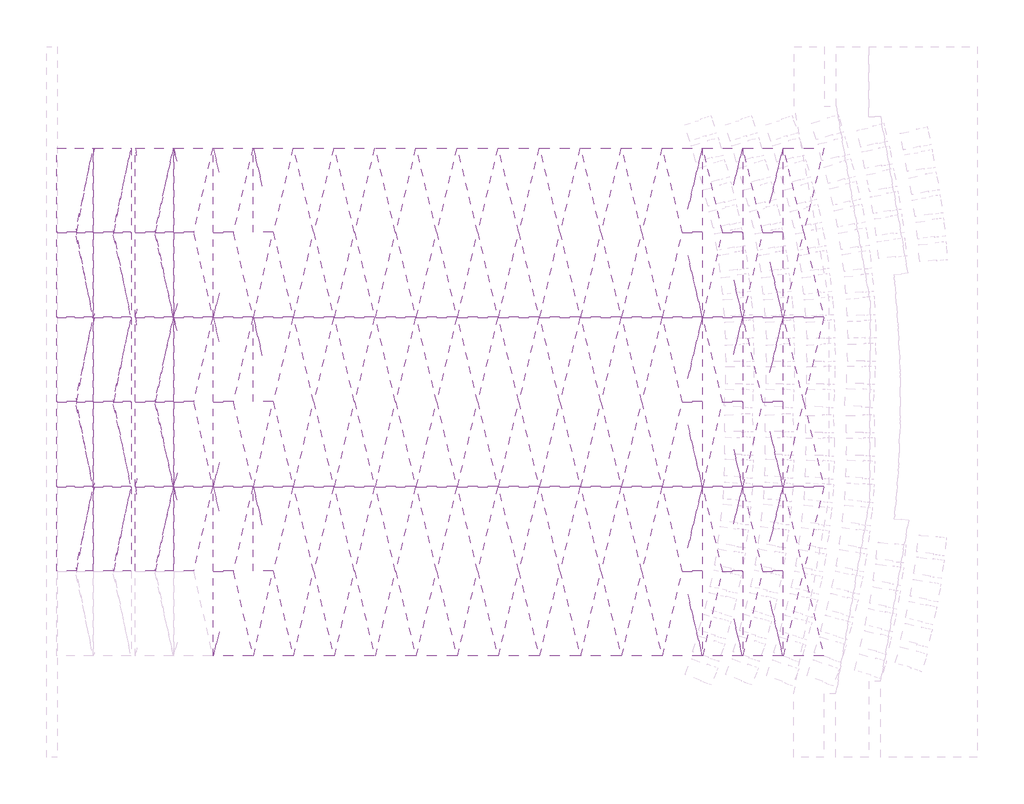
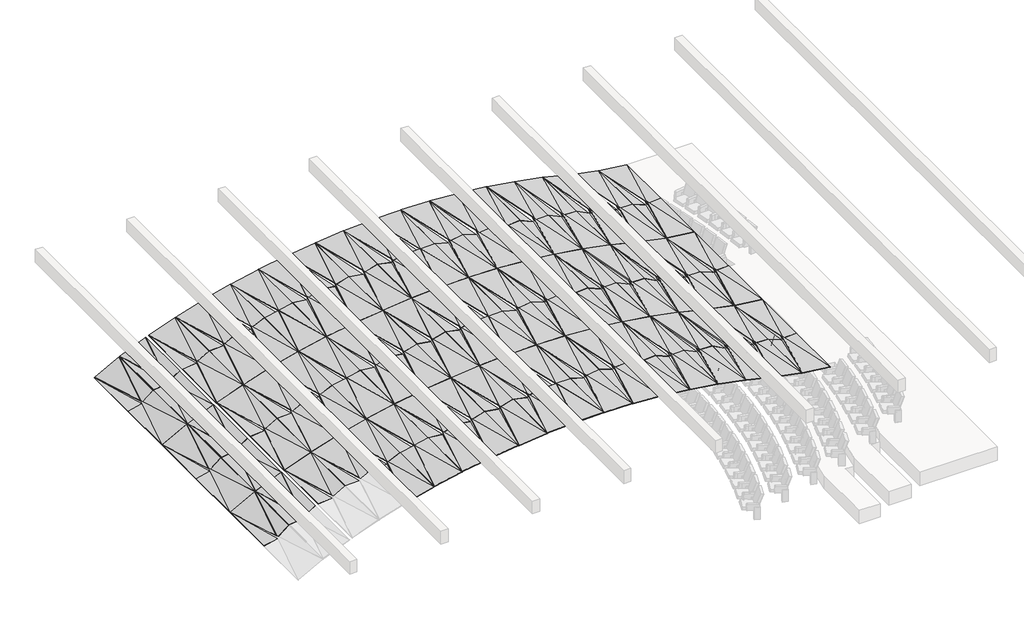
# One storey, part 5 of 5: 110 proxies.
"""IFC4 building model written with IfcOpenShell, lengths in millimetres."""

from ifc_helpers import new_model, si_unit, origin, place, context, project, spatial, transform, mapped, element, save
from components import generic_models_667b148d, generic_models_108fd8ef, generic_models_2737dbee, generic_models_52f4ddec, generic_models_476431cb, generic_models_bd13cf26, generic_models_0ea9d55a, generic_models_2425ae3d, generic_models_e1de1ecb, generic_models_1b4095ce, generic_models_89bddd4e, generic_models_99ad1ba7, generic_models_b48fa795, generic_models_03871825, generic_models_1474474d, generic_models_e3e74076, generic_models_5f1f3cf9, generic_models_ceb30a04, generic_models_93fc6445, generic_models_e78cfc23, generic_models_ebd2a3c5, generic_models_532f8a5e, generic_models_9de98600, generic_models_8ffda326, generic_models_444bb2c5, generic_models_ba33a975, generic_models_becdabcb, generic_models_4b981a6c, generic_models_98ffec8b, generic_models_5af88551, generic_models_6d9f846d, generic_models_cafb4e8f, generic_models_b7cadb70, generic_models_e6cef362, generic_models_786d5ee3, generic_models_b94cf159, generic_models_fa9d7e46, generic_models_217b12a0

model = new_model("IFC4")

# Units and contexts
model_context = context("Model", 3, world=origin())
ifc_project = project(units=[si_unit("LENGTHUNIT", "METRE", prefix="MILLI")], contexts=[model_context])

# Site, building, storey
site = spatial("IfcSite", under=ifc_project)
building = spatial("IfcBuilding", under=site)
storey = spatial("IfcBuildingStorey", under=building, Name="0 WYSOKI PARTER", Elevation=0.0)

# Proxies
placement = place(None, origin())
generic_models_shape = generic_models_667b148d(model_context)
element("IfcBuildingElementProxy", 1, Name="panel sufitowy 6 : panel sufitowy 6", ObjectType="panel sufitowy 6 : panel sufitowy 6", at=placement, inside=storey, context=model_context, shape_type="MappedRepresentation", body=[
    mapped(generic_models_shape, transform((143696.7546251, 55525.1997788, 6087.5189261), x_axis=(-1.0, 0.0, 0.0), y_axis=(0.0, -1.0, 0.0), z_axis=(0.0, 0.0, 1.0))),
])
element("IfcBuildingElementProxy", 2, Name="panel sufitowy 6 : panel sufitowy 6", ObjectType="panel sufitowy 6 : panel sufitowy 6", at=placement, inside=storey, context=model_context, shape_type="MappedRepresentation", body=[
    mapped(generic_models_shape, transform((143696.7546251, 59703.9981439, 6087.5189261), x_axis=(-1.0, 0.0, 0.0), y_axis=(0.0, -1.0, 0.0), z_axis=(0.0, 0.0, 1.0))),
])
element("IfcBuildingElementProxy", 3, Name="panel sufitowy 6 : panel sufitowy 6", ObjectType="panel sufitowy 6 : panel sufitowy 6", at=placement, inside=storey, context=model_context, shape_type="MappedRepresentation", body=[
    mapped(generic_models_shape, transform((143696.7546251, 63882.796509, 6087.5189261), x_axis=(-1.0, 0.0, 0.0), y_axis=(0.0, -1.0, 0.0), z_axis=(0.0, 0.0, 1.0))),
])
generic_models_2_shape = generic_models_108fd8ef(model_context)
element("IfcBuildingElementProxy", 4, Name="panel sufitowy 6 : panel sufitowy 6", ObjectType="panel sufitowy 6 : panel sufitowy 6", at=placement, inside=storey, context=model_context, shape_type="MappedRepresentation", body=[
    mapped(generic_models_2_shape, transform((150721.1917465, 55525.1997788, 4971.3714142), x_axis=(-1.0, 0.0, 0.0), y_axis=(0.0, -1.0, 0.0), z_axis=(0.0, 0.0, 1.0))),
])
element("IfcBuildingElementProxy", 5, Name="panel sufitowy 6 : panel sufitowy 6", ObjectType="panel sufitowy 6 : panel sufitowy 6", at=placement, inside=storey, context=model_context, shape_type="MappedRepresentation", body=[
    mapped(generic_models_2_shape, transform((150721.1917465, 59703.9981439, 4971.3714142), x_axis=(-1.0, 0.0, 0.0), y_axis=(0.0, -1.0, 0.0), z_axis=(0.0, 0.0, 1.0))),
])
element("IfcBuildingElementProxy", 6, Name="panel sufitowy 6 : panel sufitowy 6", ObjectType="panel sufitowy 6 : panel sufitowy 6", at=placement, inside=storey, context=model_context, shape_type="MappedRepresentation", body=[
    mapped(generic_models_2_shape, transform((150721.1917465, 63882.796509, 4971.3714142), x_axis=(-1.0, 0.0, 0.0), y_axis=(0.0, -1.0, 0.0), z_axis=(0.0, 0.0, 1.0))),
])
generic_models_3_shape = generic_models_2737dbee(model_context)
element("IfcBuildingElementProxy", 7, Name="panel sufitowy 6 : panel sufitowy 6", ObjectType="panel sufitowy 6 : panel sufitowy 6", at=placement, inside=storey, context=model_context, shape_type="MappedRepresentation", body=[
    mapped(generic_models_3_shape, transform((149706.7201333, 55525.1997788, 5076.4594511), x_axis=(-1.0, 0.0, 0.0), y_axis=(0.0, -1.0, 0.0), z_axis=(0.0, 0.0, 1.0))),
])
element("IfcBuildingElementProxy", 8, Name="panel sufitowy 6 : panel sufitowy 6", ObjectType="panel sufitowy 6 : panel sufitowy 6", at=placement, inside=storey, context=model_context, shape_type="MappedRepresentation", body=[
    mapped(generic_models_3_shape, transform((149706.7201333, 59703.9981439, 5076.4594511), x_axis=(-1.0, 0.0, 0.0), y_axis=(0.0, -1.0, 0.0), z_axis=(0.0, 0.0, 1.0))),
])
element("IfcBuildingElementProxy", 9, Name="panel sufitowy 6 : panel sufitowy 6", ObjectType="panel sufitowy 6 : panel sufitowy 6", at=placement, inside=storey, context=model_context, shape_type="MappedRepresentation", body=[
    mapped(generic_models_3_shape, transform((149706.7201333, 63882.796509, 5076.4594511), x_axis=(-1.0, 0.0, 0.0), y_axis=(0.0, -1.0, 0.0), z_axis=(0.0, 0.0, 1.0))),
])
generic_models_4_shape = generic_models_52f4ddec(model_context)
element("IfcBuildingElementProxy", 10, Name="panel sufitowy 6 : panel sufitowy 6", ObjectType="panel sufitowy 6 : panel sufitowy 6", at=placement, inside=storey, context=model_context, shape_type="MappedRepresentation", body=[
    mapped(generic_models_4_shape, transform((148707.357537, 55525.1997788, 5271.4096876), x_axis=(-1.0, 0.0, 0.0), y_axis=(0.0, -1.0, 0.0), z_axis=(0.0, 0.0, 1.0))),
])
element("IfcBuildingElementProxy", 11, Name="panel sufitowy 6 : panel sufitowy 6", ObjectType="panel sufitowy 6 : panel sufitowy 6", at=placement, inside=storey, context=model_context, shape_type="MappedRepresentation", body=[
    mapped(generic_models_4_shape, transform((148707.357537, 59703.9981439, 5271.4096876), x_axis=(-1.0, 0.0, 0.0), y_axis=(0.0, -1.0, 0.0), z_axis=(0.0, 0.0, 1.0))),
])
element("IfcBuildingElementProxy", 12, Name="panel sufitowy 6 : panel sufitowy 6", ObjectType="panel sufitowy 6 : panel sufitowy 6", at=placement, inside=storey, context=model_context, shape_type="MappedRepresentation", body=[
    mapped(generic_models_4_shape, transform((148707.357537, 63882.796509, 5271.4096876), x_axis=(-1.0, 0.0, 0.0), y_axis=(0.0, -1.0, 0.0), z_axis=(0.0, 0.0, 1.0))),
])
generic_models_5_shape = generic_models_476431cb(model_context)
element("IfcBuildingElementProxy", 13, Name="panel sufitowy 6 : panel sufitowy 6", ObjectType="panel sufitowy 6 : panel sufitowy 6", at=placement, inside=storey, context=model_context, shape_type="MappedRepresentation", body=[
    mapped(generic_models_5_shape, transform((147719.5402182, 55525.1997788, 5521.5239588), x_axis=(-1.0, 0.0, 0.0), y_axis=(0.0, -1.0, 0.0), z_axis=(0.0, 0.0, 1.0))),
])
element("IfcBuildingElementProxy", 14, Name="panel sufitowy 6 : panel sufitowy 6", ObjectType="panel sufitowy 6 : panel sufitowy 6", at=placement, inside=storey, context=model_context, shape_type="MappedRepresentation", body=[
    mapped(generic_models_5_shape, transform((147719.5402182, 59703.9981439, 5521.5239588), x_axis=(-1.0, 0.0, 0.0), y_axis=(0.0, -1.0, 0.0), z_axis=(0.0, 0.0, 1.0))),
])
element("IfcBuildingElementProxy", 15, Name="panel sufitowy 6 : panel sufitowy 6", ObjectType="panel sufitowy 6 : panel sufitowy 6", at=placement, inside=storey, context=model_context, shape_type="MappedRepresentation", body=[
    mapped(generic_models_5_shape, transform((147719.5402182, 63882.796509, 5521.5239588), x_axis=(-1.0, 0.0, 0.0), y_axis=(0.0, -1.0, 0.0), z_axis=(0.0, 0.0, 1.0))),
])
generic_models_6_shape = generic_models_bd13cf26(model_context)
element("IfcBuildingElementProxy", 16, Name="panel sufitowy 6 : panel sufitowy 6", ObjectType="panel sufitowy 6 : panel sufitowy 6", at=placement, inside=storey, context=model_context, shape_type="MappedRepresentation", body=[
    mapped(generic_models_6_shape, transform((146724.2621182, 55525.1997788, 5725.9583251), x_axis=(-1.0, 0.0, 0.0), y_axis=(0.0, -1.0, 0.0), z_axis=(0.0, 0.0, 1.0))),
])
element("IfcBuildingElementProxy", 17, Name="panel sufitowy 6 : panel sufitowy 6", ObjectType="panel sufitowy 6 : panel sufitowy 6", at=placement, inside=storey, context=model_context, shape_type="MappedRepresentation", body=[
    mapped(generic_models_6_shape, transform((146724.2621182, 59703.9981439, 5725.9583251), x_axis=(-1.0, 0.0, 0.0), y_axis=(0.0, -1.0, 0.0), z_axis=(0.0, 0.0, 1.0))),
])
element("IfcBuildingElementProxy", 18, Name="panel sufitowy 6 : panel sufitowy 6", ObjectType="panel sufitowy 6 : panel sufitowy 6", at=placement, inside=storey, context=model_context, shape_type="MappedRepresentation", body=[
    mapped(generic_models_6_shape, transform((146724.2621182, 63882.796509, 5725.9583251), x_axis=(-1.0, 0.0, 0.0), y_axis=(0.0, -1.0, 0.0), z_axis=(0.0, 0.0, 1.0))),
])
generic_models_7_shape = generic_models_0ea9d55a(model_context)
element("IfcBuildingElementProxy", 19, Name="panel sufitowy 6 : panel sufitowy 6", ObjectType="panel sufitowy 6 : panel sufitowy 6", at=placement, inside=storey, context=model_context, shape_type="MappedRepresentation", body=[
    mapped(generic_models_7_shape, transform((145721.6968942, 55525.1997788, 5888.9571348), x_axis=(-1.0, 0.0, 0.0), y_axis=(0.0, -1.0, 0.0), z_axis=(0.0, 0.0, 1.0))),
])
element("IfcBuildingElementProxy", 20, Name="panel sufitowy 6 : panel sufitowy 6", ObjectType="panel sufitowy 6 : panel sufitowy 6", at=placement, inside=storey, context=model_context, shape_type="MappedRepresentation", body=[
    mapped(generic_models_7_shape, transform((145721.6968942, 59703.9981439, 5888.9571348), x_axis=(-1.0, 0.0, 0.0), y_axis=(0.0, -1.0, 0.0), z_axis=(0.0, 0.0, 1.0))),
])
element("IfcBuildingElementProxy", 21, Name="panel sufitowy 6 : panel sufitowy 6", ObjectType="panel sufitowy 6 : panel sufitowy 6", at=placement, inside=storey, context=model_context, shape_type="MappedRepresentation", body=[
    mapped(generic_models_7_shape, transform((145721.6968942, 63882.796509, 5888.9571348), x_axis=(-1.0, 0.0, 0.0), y_axis=(0.0, -1.0, 0.0), z_axis=(0.0, 0.0, 1.0))),
])
generic_models_8_shape = generic_models_2425ae3d(model_context)
element("IfcBuildingElementProxy", 22, Name="panel sufitowy 6 : panel sufitowy 6", ObjectType="panel sufitowy 6 : panel sufitowy 6", at=placement, inside=storey, context=model_context, shape_type="MappedRepresentation", body=[
    mapped(generic_models_8_shape, transform((144711.2626485, 55525.1997788, 6003.1580534), x_axis=(-1.0, 0.0, 0.0), y_axis=(0.0, -1.0, 0.0), z_axis=(0.0, 0.0, 1.0))),
])
element("IfcBuildingElementProxy", 23, Name="panel sufitowy 6 : panel sufitowy 6", ObjectType="panel sufitowy 6 : panel sufitowy 6", at=placement, inside=storey, context=model_context, shape_type="MappedRepresentation", body=[
    mapped(generic_models_8_shape, transform((144711.2626485, 59703.9981439, 6003.1580534), x_axis=(-1.0, 0.0, 0.0), y_axis=(0.0, -1.0, 0.0), z_axis=(0.0, 0.0, 1.0))),
])
element("IfcBuildingElementProxy", 24, Name="panel sufitowy 6 : panel sufitowy 6", ObjectType="panel sufitowy 6 : panel sufitowy 6", at=placement, inside=storey, context=model_context, shape_type="MappedRepresentation", body=[
    mapped(generic_models_8_shape, transform((144711.2626485, 63882.796509, 6003.1580534), x_axis=(-1.0, 0.0, 0.0), y_axis=(0.0, -1.0, 0.0), z_axis=(0.0, 0.0, 1.0))),
])
generic_models_9_shape = generic_models_e1de1ecb(model_context)
element("IfcBuildingElementProxy", 25, Name="panel sufitowy 6 : panel sufitowy 6", ObjectType="panel sufitowy 6 : panel sufitowy 6", at=placement, inside=storey, context=model_context, shape_type="MappedRepresentation", body=[
    mapped(generic_models_9_shape, transform((142682.7546251, 55525.1997788, 6115.5189261), x_axis=(-1.0, 0.0, 0.0), y_axis=(0.0, -1.0, 0.0), z_axis=(0.0, 0.0, 1.0))),
])
element("IfcBuildingElementProxy", 26, Name="panel sufitowy 6 : panel sufitowy 6", ObjectType="panel sufitowy 6 : panel sufitowy 6", at=placement, inside=storey, context=model_context, shape_type="MappedRepresentation", body=[
    mapped(generic_models_9_shape, transform((142682.7546251, 59703.9981439, 6115.5189261), x_axis=(-1.0, 0.0, 0.0), y_axis=(0.0, -1.0, 0.0), z_axis=(0.0, 0.0, 1.0))),
])
element("IfcBuildingElementProxy", 27, Name="panel sufitowy 6 : panel sufitowy 6", ObjectType="panel sufitowy 6 : panel sufitowy 6", at=placement, inside=storey, context=model_context, shape_type="MappedRepresentation", body=[
    mapped(generic_models_9_shape, transform((142682.7546251, 63882.796509, 6115.5189261), x_axis=(-1.0, 0.0, 0.0), y_axis=(0.0, -1.0, 0.0), z_axis=(0.0, 0.0, 1.0))),
])
generic_models_10_shape = generic_models_1b4095ce(model_context)
element("IfcBuildingElementProxy", 28, Name="panel sufitowy 6 : panel sufitowy 6", ObjectType="panel sufitowy 6 : panel sufitowy 6", at=placement, inside=storey, context=model_context, shape_type="MappedRepresentation", body=[
    mapped(generic_models_10_shape, transform((141668.9090622, 55525.1997788, 6107.822186), x_axis=(-1.0, 0.0, 0.0), y_axis=(0.0, -1.0, 0.0), z_axis=(0.0, 0.0, 1.0))),
])
element("IfcBuildingElementProxy", 29, Name="panel sufitowy 6 : panel sufitowy 6", ObjectType="panel sufitowy 6 : panel sufitowy 6", at=placement, inside=storey, context=model_context, shape_type="MappedRepresentation", body=[
    mapped(generic_models_10_shape, transform((141668.9090622, 59703.9981439, 6107.822186), x_axis=(-1.0, 0.0, 0.0), y_axis=(0.0, -1.0, 0.0), z_axis=(0.0, 0.0, 1.0))),
])
element("IfcBuildingElementProxy", 30, Name="panel sufitowy 6 : panel sufitowy 6", ObjectType="panel sufitowy 6 : panel sufitowy 6", at=placement, inside=storey, context=model_context, shape_type="MappedRepresentation", body=[
    mapped(generic_models_10_shape, transform((141668.9090622, 63882.796509, 6107.822186), x_axis=(-1.0, 0.0, 0.0), y_axis=(0.0, -1.0, 0.0), z_axis=(0.0, 0.0, 1.0))),
])
generic_models_11_shape = generic_models_89bddd4e(model_context)
element("IfcBuildingElementProxy", 31, Name="panel sufitowy 6 : panel sufitowy 6", ObjectType="panel sufitowy 6 : panel sufitowy 6", at=placement, inside=storey, context=model_context, shape_type="MappedRepresentation", body=[
    mapped(generic_models_11_shape, transform((140653.3028254, 55525.1997788, 6066.5965185), x_axis=(-1.0, 0.0, 0.0), y_axis=(0.0, -1.0, 0.0), z_axis=(0.0, 0.0, 1.0))),
])
element("IfcBuildingElementProxy", 32, Name="panel sufitowy 6 : panel sufitowy 6", ObjectType="panel sufitowy 6 : panel sufitowy 6", at=placement, inside=storey, context=model_context, shape_type="MappedRepresentation", body=[
    mapped(generic_models_11_shape, transform((140653.3028254, 59703.9981439, 6066.5965185), x_axis=(-1.0, 0.0, 0.0), y_axis=(0.0, -1.0, 0.0), z_axis=(0.0, 0.0, 1.0))),
])
element("IfcBuildingElementProxy", 33, Name="panel sufitowy 6 : panel sufitowy 6", ObjectType="panel sufitowy 6 : panel sufitowy 6", at=placement, inside=storey, context=model_context, shape_type="MappedRepresentation", body=[
    mapped(generic_models_11_shape, transform((140653.3028254, 63882.796509, 6066.5965185), x_axis=(-1.0, 0.0, 0.0), y_axis=(0.0, -1.0, 0.0), z_axis=(0.0, 0.0, 1.0))),
])
generic_models_12_shape = generic_models_99ad1ba7(model_context)
element("IfcBuildingElementProxy", 34, Name="panel sufitowy 6 : panel sufitowy 6", ObjectType="panel sufitowy 6 : panel sufitowy 6", at=placement, inside=storey, context=model_context, shape_type="MappedRepresentation", body=[
    mapped(generic_models_12_shape, transform((139640.1696753, 55525.1997788, 5964.3746941), x_axis=(-1.0, 0.0, 0.0), y_axis=(0.0, -1.0, 0.0), z_axis=(0.0, 0.0, 1.0))),
])
element("IfcBuildingElementProxy", 35, Name="panel sufitowy 6 : panel sufitowy 6", ObjectType="panel sufitowy 6 : panel sufitowy 6", at=placement, inside=storey, context=model_context, shape_type="MappedRepresentation", body=[
    mapped(generic_models_12_shape, transform((139640.1696753, 59703.9981439, 5964.3746941), x_axis=(-1.0, 0.0, 0.0), y_axis=(0.0, -1.0, 0.0), z_axis=(0.0, 0.0, 1.0))),
])
element("IfcBuildingElementProxy", 36, Name="panel sufitowy 6 : panel sufitowy 6", ObjectType="panel sufitowy 6 : panel sufitowy 6", at=placement, inside=storey, context=model_context, shape_type="MappedRepresentation", body=[
    mapped(generic_models_12_shape, transform((139640.1696753, 63882.796509, 5964.3746941), x_axis=(-1.0, 0.0, 0.0), y_axis=(0.0, -1.0, 0.0), z_axis=(0.0, 0.0, 1.0))),
])
generic_models_13_shape = generic_models_b48fa795(model_context)
element("IfcBuildingElementProxy", 37, Name="panel sufitowy 6 : panel sufitowy 6", ObjectType="panel sufitowy 6 : panel sufitowy 6", at=placement, inside=storey, context=model_context, shape_type="MappedRepresentation", body=[
    mapped(generic_models_13_shape, transform((138629.7875083, 55525.1997788, 5849.8242251), x_axis=(-1.0, 0.0, 0.0), y_axis=(0.0, -1.0, 0.0), z_axis=(0.0, 0.0, 1.0))),
])
element("IfcBuildingElementProxy", 38, Name="panel sufitowy 6 : panel sufitowy 6", ObjectType="panel sufitowy 6 : panel sufitowy 6", at=placement, inside=storey, context=model_context, shape_type="MappedRepresentation", body=[
    mapped(generic_models_13_shape, transform((138629.7875083, 59703.9981439, 5849.8242251), x_axis=(-1.0, 0.0, 0.0), y_axis=(0.0, -1.0, 0.0), z_axis=(0.0, 0.0, 1.0))),
])
element("IfcBuildingElementProxy", 39, Name="panel sufitowy 6 : panel sufitowy 6", ObjectType="panel sufitowy 6 : panel sufitowy 6", at=placement, inside=storey, context=model_context, shape_type="MappedRepresentation", body=[
    mapped(generic_models_13_shape, transform((138629.7875083, 63882.796509, 5849.8242251), x_axis=(-1.0, 0.0, 0.0), y_axis=(0.0, -1.0, 0.0), z_axis=(0.0, 0.0, 1.0))),
])
generic_models_14_shape = generic_models_03871825(model_context)
element("IfcBuildingElementProxy", 40, Name="panel sufitowy 6 : panel sufitowy 6", ObjectType="panel sufitowy 6 : panel sufitowy 6", at=placement, inside=storey, context=model_context, shape_type="MappedRepresentation", body=[
    mapped(generic_models_14_shape, transform((137624.2961543, 55525.1997788, 5703.8868086), x_axis=(-1.0, 0.0, 0.0), y_axis=(0.0, -1.0, 0.0), z_axis=(0.0, 0.0, 1.0))),
])
element("IfcBuildingElementProxy", 41, Name="panel sufitowy 6 : panel sufitowy 6", ObjectType="panel sufitowy 6 : panel sufitowy 6", at=placement, inside=storey, context=model_context, shape_type="MappedRepresentation", body=[
    mapped(generic_models_14_shape, transform((137624.2961543, 59703.9981439, 5703.8868086), x_axis=(-1.0, 0.0, 0.0), y_axis=(0.0, -1.0, 0.0), z_axis=(0.0, 0.0, 1.0))),
])
element("IfcBuildingElementProxy", 42, Name="panel sufitowy 6 : panel sufitowy 6", ObjectType="panel sufitowy 6 : panel sufitowy 6", at=placement, inside=storey, context=model_context, shape_type="MappedRepresentation", body=[
    mapped(generic_models_14_shape, transform((137624.2961543, 63882.796509, 5703.8868086), x_axis=(-1.0, 0.0, 0.0), y_axis=(0.0, -1.0, 0.0), z_axis=(0.0, 0.0, 1.0))),
])
generic_models_15_shape = generic_models_1474474d(model_context)
element("IfcBuildingElementProxy", 43, Name="panel sufitowy 6 : panel sufitowy 6", ObjectType="panel sufitowy 6 : panel sufitowy 6", at=placement, inside=storey, context=model_context, shape_type="MappedRepresentation", body=[
    mapped(generic_models_15_shape, transform((136626.5418968, 55525.1997788, 5503.2327074), x_axis=(-1.0, 0.0, 0.0), y_axis=(0.0, -1.0, 0.0), z_axis=(0.0, 0.0, 1.0))),
])
element("IfcBuildingElementProxy", 44, Name="panel sufitowy 6 : panel sufitowy 6", ObjectType="panel sufitowy 6 : panel sufitowy 6", at=placement, inside=storey, context=model_context, shape_type="MappedRepresentation", body=[
    mapped(generic_models_15_shape, transform((136626.5418968, 59703.9981439, 5503.2327074), x_axis=(-1.0, 0.0, 0.0), y_axis=(0.0, -1.0, 0.0), z_axis=(0.0, 0.0, 1.0))),
])
element("IfcBuildingElementProxy", 45, Name="panel sufitowy 6 : panel sufitowy 6", ObjectType="panel sufitowy 6 : panel sufitowy 6", at=placement, inside=storey, context=model_context, shape_type="MappedRepresentation", body=[
    mapped(generic_models_15_shape, transform((136626.5418968, 63882.796509, 5503.2327074), x_axis=(-1.0, 0.0, 0.0), y_axis=(0.0, -1.0, 0.0), z_axis=(0.0, 0.0, 1.0))),
])
generic_models_16_shape = generic_models_e3e74076(model_context)
element("IfcBuildingElementProxy", 46, Name="panel sufitowy 6 : panel sufitowy 6", ObjectType="panel sufitowy 6 : panel sufitowy 6", at=placement, inside=storey, context=model_context, shape_type="MappedRepresentation", body=[
    mapped(generic_models_16_shape, transform((135632.7214389, 55525.1997788, 5259.4400615), x_axis=(-1.0, 0.0, 0.0), y_axis=(0.0, -1.0, 0.0), z_axis=(0.0, 0.0, 1.0))),
])
element("IfcBuildingElementProxy", 47, Name="panel sufitowy 6 : panel sufitowy 6", ObjectType="panel sufitowy 6 : panel sufitowy 6", at=placement, inside=storey, context=model_context, shape_type="MappedRepresentation", body=[
    mapped(generic_models_16_shape, transform((135632.7214389, 59703.9981439, 5259.4400615), x_axis=(-1.0, 0.0, 0.0), y_axis=(0.0, -1.0, 0.0), z_axis=(0.0, 0.0, 1.0))),
])
element("IfcBuildingElementProxy", 48, Name="panel sufitowy 6 : panel sufitowy 6", ObjectType="panel sufitowy 6 : panel sufitowy 6", at=placement, inside=storey, context=model_context, shape_type="MappedRepresentation", body=[
    mapped(generic_models_16_shape, transform((135632.7214389, 63882.796509, 5259.4400615), x_axis=(-1.0, 0.0, 0.0), y_axis=(0.0, -1.0, 0.0), z_axis=(0.0, 0.0, 1.0))),
])
generic_models_17_shape = generic_models_5f1f3cf9(model_context)
element("IfcBuildingElementProxy", 49, Name="panel sufitowy 6 : panel sufitowy 6", ObjectType="panel sufitowy 6 : panel sufitowy 6", at=placement, inside=storey, context=model_context, shape_type="MappedRepresentation", body=[
    mapped(generic_models_17_shape, transform((134659.1615643, 55525.1997788, 4964.216617), x_axis=(-1.0, 0.0, 0.0), y_axis=(0.0, -1.0, 0.0), z_axis=(0.0, 0.0, 1.0))),
])
element("IfcBuildingElementProxy", 50, Name="panel sufitowy 6 : panel sufitowy 6", ObjectType="panel sufitowy 6 : panel sufitowy 6", at=placement, inside=storey, context=model_context, shape_type="MappedRepresentation", body=[
    mapped(generic_models_17_shape, transform((134659.1615643, 59703.9981439, 4964.216617), x_axis=(-1.0, 0.0, 0.0), y_axis=(0.0, -1.0, 0.0), z_axis=(0.0, 0.0, 1.0))),
])
element("IfcBuildingElementProxy", 51, Name="panel sufitowy 6 : panel sufitowy 6", ObjectType="panel sufitowy 6 : panel sufitowy 6", at=placement, inside=storey, context=model_context, shape_type="MappedRepresentation", body=[
    mapped(generic_models_17_shape, transform((134659.1615643, 63882.796509, 4964.216617), x_axis=(-1.0, 0.0, 0.0), y_axis=(0.0, -1.0, 0.0), z_axis=(0.0, 0.0, 1.0))),
])
generic_models_18_shape = generic_models_ceb30a04(model_context)
element("IfcBuildingElementProxy", 52, Name="panel sufitowy 6 : panel sufitowy 6", ObjectType="panel sufitowy 6 : panel sufitowy 6", at=placement, inside=storey, context=model_context, shape_type="MappedRepresentation", body=[
    mapped(generic_models_18_shape, transform((133610.0646602, 55525.1997788, 4599.555071), x_axis=(-1.0, 0.0, 0.0), y_axis=(0.0, -1.0, 0.0), z_axis=(0.0, 0.0, 1.0))),
])
element("IfcBuildingElementProxy", 53, Name="panel sufitowy 6 : panel sufitowy 6", ObjectType="panel sufitowy 6 : panel sufitowy 6", at=placement, inside=storey, context=model_context, shape_type="MappedRepresentation", body=[
    mapped(generic_models_18_shape, transform((133610.0646602, 59703.9981439, 4599.555071), x_axis=(-1.0, 0.0, 0.0), y_axis=(0.0, -1.0, 0.0), z_axis=(0.0, 0.0, 1.0))),
])
element("IfcBuildingElementProxy", 54, Name="panel sufitowy 6 : panel sufitowy 6", ObjectType="panel sufitowy 6 : panel sufitowy 6", at=placement, inside=storey, context=model_context, shape_type="MappedRepresentation", body=[
    mapped(generic_models_18_shape, transform((133610.0646602, 63882.796509, 4599.555071), x_axis=(-1.0, 0.0, 0.0), y_axis=(0.0, -1.0, 0.0), z_axis=(0.0, 0.0, 1.0))),
])
generic_models_19_shape = generic_models_93fc6445(model_context)
element("IfcBuildingElementProxy", 55, Name="panel sufitowy 6 : panel sufitowy 6", ObjectType="panel sufitowy 6 : panel sufitowy 6", at=placement, inside=storey, context=model_context, shape_type="MappedRepresentation", body=[
    mapped(generic_models_19_shape, transform((132659.3547582, 55525.1997788, 4219.9166313), x_axis=(-1.0, 0.0, 0.0), y_axis=(0.0, -1.0, 0.0), z_axis=(0.0, 0.0, 1.0))),
])
element("IfcBuildingElementProxy", 56, Name="panel sufitowy 6 : panel sufitowy 6", ObjectType="panel sufitowy 6 : panel sufitowy 6", at=placement, inside=storey, context=model_context, shape_type="MappedRepresentation", body=[
    mapped(generic_models_19_shape, transform((132659.3547582, 59703.9981439, 4219.9166313), x_axis=(-1.0, 0.0, 0.0), y_axis=(0.0, -1.0, 0.0), z_axis=(0.0, 0.0, 1.0))),
])
element("IfcBuildingElementProxy", 57, Name="panel sufitowy 6 : panel sufitowy 6", ObjectType="panel sufitowy 6 : panel sufitowy 6", at=placement, inside=storey, context=model_context, shape_type="MappedRepresentation", body=[
    mapped(generic_models_19_shape, transform((132659.3547582, 63882.796509, 4219.9166313), x_axis=(-1.0, 0.0, 0.0), y_axis=(0.0, -1.0, 0.0), z_axis=(0.0, 0.0, 1.0))),
])
generic_models_20_shape = generic_models_e78cfc23(model_context)
element("IfcBuildingElementProxy", 58, Name="panel sufitowy 6 : panel sufitowy 6", ObjectType="panel sufitowy 6 : panel sufitowy 6", at=placement, inside=storey, context=model_context, shape_type="MappedRepresentation", body=[
    mapped(generic_models_20_shape, transform((143696.7546251, 50845.1997788, 6087.5189261), x_axis=(-1.0, 0.0, 0.0), y_axis=(0.0, -1.0, 0.0), z_axis=(0.0, 0.0, 1.0))),
])
element("IfcBuildingElementProxy", 59, Name="panel sufitowy 6 : panel sufitowy 6", ObjectType="panel sufitowy 6 : panel sufitowy 6", at=placement, inside=storey, context=model_context, shape_type="MappedRepresentation", body=[
    mapped(generic_models_20_shape, transform((143696.7546251, 55023.9981439, 6087.5189261), x_axis=(-1.0, 0.0, 0.0), y_axis=(0.0, -1.0, 0.0), z_axis=(0.0, 0.0, 1.0))),
])
element("IfcBuildingElementProxy", 60, Name="panel sufitowy 6 : panel sufitowy 6", ObjectType="panel sufitowy 6 : panel sufitowy 6", at=placement, inside=storey, context=model_context, shape_type="MappedRepresentation", body=[
    mapped(generic_models_20_shape, transform((143696.7546251, 59202.796509, 6087.5189261), x_axis=(-1.0, 0.0, 0.0), y_axis=(0.0, -1.0, 0.0), z_axis=(0.0, 0.0, 1.0))),
])
generic_models_21_shape = generic_models_ebd2a3c5(model_context)
element("IfcBuildingElementProxy", 61, Name="panel sufitowy 6 : panel sufitowy 6", ObjectType="panel sufitowy 6 : panel sufitowy 6", at=placement, inside=storey, context=model_context, shape_type="MappedRepresentation", body=[
    mapped(generic_models_21_shape, transform((150721.1917465, 50845.1997788, 4971.3714142), x_axis=(-1.0, 0.0, 0.0), y_axis=(0.0, -1.0, 0.0), z_axis=(0.0, 0.0, 1.0))),
])
element("IfcBuildingElementProxy", 62, Name="panel sufitowy 6 : panel sufitowy 6", ObjectType="panel sufitowy 6 : panel sufitowy 6", at=placement, inside=storey, context=model_context, shape_type="MappedRepresentation", body=[
    mapped(generic_models_21_shape, transform((150721.1917465, 55023.9981439, 4971.3714142), x_axis=(-1.0, 0.0, 0.0), y_axis=(0.0, -1.0, 0.0), z_axis=(0.0, 0.0, 1.0))),
])
element("IfcBuildingElementProxy", 63, Name="panel sufitowy 6 : panel sufitowy 6", ObjectType="panel sufitowy 6 : panel sufitowy 6", at=placement, inside=storey, context=model_context, shape_type="MappedRepresentation", body=[
    mapped(generic_models_21_shape, transform((150721.1917465, 59202.796509, 4971.3714142), x_axis=(-1.0, 0.0, 0.0), y_axis=(0.0, -1.0, 0.0), z_axis=(0.0, 0.0, 1.0))),
])
generic_models_22_shape = generic_models_532f8a5e(model_context)
element("IfcBuildingElementProxy", 64, Name="panel sufitowy 6 : panel sufitowy 6", ObjectType="panel sufitowy 6 : panel sufitowy 6", at=placement, inside=storey, context=model_context, shape_type="MappedRepresentation", body=[
    mapped(generic_models_22_shape, transform((149706.7201333, 50845.1997788, 5076.4594511), x_axis=(-1.0, 0.0, 0.0), y_axis=(0.0, -1.0, 0.0), z_axis=(0.0, 0.0, 1.0))),
])
element("IfcBuildingElementProxy", 65, Name="panel sufitowy 6 : panel sufitowy 6", ObjectType="panel sufitowy 6 : panel sufitowy 6", at=placement, inside=storey, context=model_context, shape_type="MappedRepresentation", body=[
    mapped(generic_models_22_shape, transform((149706.7201333, 55023.9981439, 5076.4594511), x_axis=(-1.0, 0.0, 0.0), y_axis=(0.0, -1.0, 0.0), z_axis=(0.0, 0.0, 1.0))),
])
element("IfcBuildingElementProxy", 66, Name="panel sufitowy 6 : panel sufitowy 6", ObjectType="panel sufitowy 6 : panel sufitowy 6", at=placement, inside=storey, context=model_context, shape_type="MappedRepresentation", body=[
    mapped(generic_models_22_shape, transform((149706.7201333, 59202.796509, 5076.4594511), x_axis=(-1.0, 0.0, 0.0), y_axis=(0.0, -1.0, 0.0), z_axis=(0.0, 0.0, 1.0))),
])
generic_models_23_shape = generic_models_9de98600(model_context)
element("IfcBuildingElementProxy", 67, Name="panel sufitowy 6 : panel sufitowy 6", ObjectType="panel sufitowy 6 : panel sufitowy 6", at=placement, inside=storey, context=model_context, shape_type="MappedRepresentation", body=[
    mapped(generic_models_23_shape, transform((148707.357537, 50845.1997788, 5271.4096876), x_axis=(-1.0, 0.0, 0.0), y_axis=(0.0, -1.0, 0.0), z_axis=(0.0, 0.0, 1.0))),
])
element("IfcBuildingElementProxy", 68, Name="panel sufitowy 6 : panel sufitowy 6", ObjectType="panel sufitowy 6 : panel sufitowy 6", at=placement, inside=storey, context=model_context, shape_type="MappedRepresentation", body=[
    mapped(generic_models_23_shape, transform((148707.357537, 55023.9981439, 5271.4096876), x_axis=(-1.0, 0.0, 0.0), y_axis=(0.0, -1.0, 0.0), z_axis=(0.0, 0.0, 1.0))),
])
element("IfcBuildingElementProxy", 69, Name="panel sufitowy 6 : panel sufitowy 6", ObjectType="panel sufitowy 6 : panel sufitowy 6", at=placement, inside=storey, context=model_context, shape_type="MappedRepresentation", body=[
    mapped(generic_models_23_shape, transform((148707.357537, 59202.796509, 5271.4096876), x_axis=(-1.0, 0.0, 0.0), y_axis=(0.0, -1.0, 0.0), z_axis=(0.0, 0.0, 1.0))),
])
generic_models_24_shape = generic_models_8ffda326(model_context)
element("IfcBuildingElementProxy", 70, Name="panel sufitowy 6 : panel sufitowy 6", ObjectType="panel sufitowy 6 : panel sufitowy 6", at=placement, inside=storey, context=model_context, shape_type="MappedRepresentation", body=[
    mapped(generic_models_24_shape, transform((147719.5402182, 50845.1997788, 5521.5239588), x_axis=(-1.0, 0.0, 0.0), y_axis=(0.0, -1.0, 0.0), z_axis=(0.0, 0.0, 1.0))),
])
element("IfcBuildingElementProxy", 71, Name="panel sufitowy 6 : panel sufitowy 6", ObjectType="panel sufitowy 6 : panel sufitowy 6", at=placement, inside=storey, context=model_context, shape_type="MappedRepresentation", body=[
    mapped(generic_models_24_shape, transform((147719.5402182, 55023.9981439, 5521.5239588), x_axis=(-1.0, 0.0, 0.0), y_axis=(0.0, -1.0, 0.0), z_axis=(0.0, 0.0, 1.0))),
])
element("IfcBuildingElementProxy", 72, Name="panel sufitowy 6 : panel sufitowy 6", ObjectType="panel sufitowy 6 : panel sufitowy 6", at=placement, inside=storey, context=model_context, shape_type="MappedRepresentation", body=[
    mapped(generic_models_24_shape, transform((147719.5402182, 59202.796509, 5521.5239588), x_axis=(-1.0, 0.0, 0.0), y_axis=(0.0, -1.0, 0.0), z_axis=(0.0, 0.0, 1.0))),
])
generic_models_25_shape = generic_models_444bb2c5(model_context)
element("IfcBuildingElementProxy", 73, Name="panel sufitowy 6 : panel sufitowy 6", ObjectType="panel sufitowy 6 : panel sufitowy 6", at=placement, inside=storey, context=model_context, shape_type="MappedRepresentation", body=[
    mapped(generic_models_25_shape, transform((146724.2621182, 50845.1997788, 5725.9583251), x_axis=(-1.0, 0.0, 0.0), y_axis=(0.0, -1.0, 0.0), z_axis=(0.0, 0.0, 1.0))),
])
element("IfcBuildingElementProxy", 74, Name="panel sufitowy 6 : panel sufitowy 6", ObjectType="panel sufitowy 6 : panel sufitowy 6", at=placement, inside=storey, context=model_context, shape_type="MappedRepresentation", body=[
    mapped(generic_models_25_shape, transform((146724.2621182, 55023.9981439, 5725.9583251), x_axis=(-1.0, 0.0, 0.0), y_axis=(0.0, -1.0, 0.0), z_axis=(0.0, 0.0, 1.0))),
])
element("IfcBuildingElementProxy", 75, Name="panel sufitowy 6 : panel sufitowy 6", ObjectType="panel sufitowy 6 : panel sufitowy 6", at=placement, inside=storey, context=model_context, shape_type="MappedRepresentation", body=[
    mapped(generic_models_25_shape, transform((146724.2621182, 59202.796509, 5725.9583251), x_axis=(-1.0, 0.0, 0.0), y_axis=(0.0, -1.0, 0.0), z_axis=(0.0, 0.0, 1.0))),
])
generic_models_26_shape = generic_models_ba33a975(model_context)
element("IfcBuildingElementProxy", 76, Name="panel sufitowy 6 : panel sufitowy 6", ObjectType="panel sufitowy 6 : panel sufitowy 6", at=placement, inside=storey, context=model_context, shape_type="MappedRepresentation", body=[
    mapped(generic_models_26_shape, transform((145721.6968942, 50845.1997788, 5888.9571348), x_axis=(-1.0, 0.0, 0.0), y_axis=(0.0, -1.0, 0.0), z_axis=(0.0, 0.0, 1.0))),
])
element("IfcBuildingElementProxy", 77, Name="panel sufitowy 6 : panel sufitowy 6", ObjectType="panel sufitowy 6 : panel sufitowy 6", at=placement, inside=storey, context=model_context, shape_type="MappedRepresentation", body=[
    mapped(generic_models_26_shape, transform((145721.6968942, 55023.9981439, 5888.9571348), x_axis=(-1.0, 0.0, 0.0), y_axis=(0.0, -1.0, 0.0), z_axis=(0.0, 0.0, 1.0))),
])
element("IfcBuildingElementProxy", 78, Name="panel sufitowy 6 : panel sufitowy 6", ObjectType="panel sufitowy 6 : panel sufitowy 6", at=placement, inside=storey, context=model_context, shape_type="MappedRepresentation", body=[
    mapped(generic_models_26_shape, transform((145721.6968942, 59202.796509, 5888.9571348), x_axis=(-1.0, 0.0, 0.0), y_axis=(0.0, -1.0, 0.0), z_axis=(0.0, 0.0, 1.0))),
])
generic_models_27_shape = generic_models_becdabcb(model_context)
element("IfcBuildingElementProxy", 79, Name="panel sufitowy 6 : panel sufitowy 6", ObjectType="panel sufitowy 6 : panel sufitowy 6", at=placement, inside=storey, context=model_context, shape_type="MappedRepresentation", body=[
    mapped(generic_models_27_shape, transform((144711.2626485, 50845.1997788, 6003.1580534), x_axis=(-1.0, 0.0, 0.0), y_axis=(0.0, -1.0, 0.0), z_axis=(0.0, 0.0, 1.0))),
])
element("IfcBuildingElementProxy", 80, Name="panel sufitowy 6 : panel sufitowy 6", ObjectType="panel sufitowy 6 : panel sufitowy 6", at=placement, inside=storey, context=model_context, shape_type="MappedRepresentation", body=[
    mapped(generic_models_27_shape, transform((144711.2626485, 55023.9981439, 6003.1580534), x_axis=(-1.0, 0.0, 0.0), y_axis=(0.0, -1.0, 0.0), z_axis=(0.0, 0.0, 1.0))),
])
element("IfcBuildingElementProxy", 81, Name="panel sufitowy 6 : panel sufitowy 6", ObjectType="panel sufitowy 6 : panel sufitowy 6", at=placement, inside=storey, context=model_context, shape_type="MappedRepresentation", body=[
    mapped(generic_models_27_shape, transform((144711.2626485, 59202.796509, 6003.1580534), x_axis=(-1.0, 0.0, 0.0), y_axis=(0.0, -1.0, 0.0), z_axis=(0.0, 0.0, 1.0))),
])
generic_models_28_shape = generic_models_4b981a6c(model_context)
element("IfcBuildingElementProxy", 82, Name="panel sufitowy 6 : panel sufitowy 6", ObjectType="panel sufitowy 6 : panel sufitowy 6", at=placement, inside=storey, context=model_context, shape_type="MappedRepresentation", body=[
    mapped(generic_models_28_shape, transform((141668.9090622, 50845.1997788, 6107.822186), x_axis=(-1.0, 0.0, 0.0), y_axis=(0.0, -1.0, 0.0), z_axis=(0.0, 0.0, 1.0))),
])
element("IfcBuildingElementProxy", 83, Name="panel sufitowy 6 : panel sufitowy 6", ObjectType="panel sufitowy 6 : panel sufitowy 6", at=placement, inside=storey, context=model_context, shape_type="MappedRepresentation", body=[
    mapped(generic_models_28_shape, transform((141668.9090622, 55023.9981439, 6107.822186), x_axis=(-1.0, 0.0, 0.0), y_axis=(0.0, -1.0, 0.0), z_axis=(0.0, 0.0, 1.0))),
])
element("IfcBuildingElementProxy", 84, Name="panel sufitowy 6 : panel sufitowy 6", ObjectType="panel sufitowy 6 : panel sufitowy 6", at=placement, inside=storey, context=model_context, shape_type="MappedRepresentation", body=[
    mapped(generic_models_28_shape, transform((141668.9090622, 59202.796509, 6107.822186), x_axis=(-1.0, 0.0, 0.0), y_axis=(0.0, -1.0, 0.0), z_axis=(0.0, 0.0, 1.0))),
])
generic_models_29_shape = generic_models_98ffec8b(model_context)
element("IfcBuildingElementProxy", 85, Name="panel sufitowy 6 : panel sufitowy 6", ObjectType="panel sufitowy 6 : panel sufitowy 6", at=placement, inside=storey, context=model_context, shape_type="MappedRepresentation", body=[
    mapped(generic_models_29_shape, transform((140653.3028254, 50845.1997788, 6066.5965185), x_axis=(-1.0, 0.0, 0.0), y_axis=(0.0, -1.0, 0.0), z_axis=(0.0, 0.0, 1.0))),
])
element("IfcBuildingElementProxy", 86, Name="panel sufitowy 6 : panel sufitowy 6", ObjectType="panel sufitowy 6 : panel sufitowy 6", at=placement, inside=storey, context=model_context, shape_type="MappedRepresentation", body=[
    mapped(generic_models_29_shape, transform((140653.3028254, 55023.9981439, 6066.5965185), x_axis=(-1.0, 0.0, 0.0), y_axis=(0.0, -1.0, 0.0), z_axis=(0.0, 0.0, 1.0))),
])
element("IfcBuildingElementProxy", 87, Name="panel sufitowy 6 : panel sufitowy 6", ObjectType="panel sufitowy 6 : panel sufitowy 6", at=placement, inside=storey, context=model_context, shape_type="MappedRepresentation", body=[
    mapped(generic_models_29_shape, transform((140653.3028254, 59202.796509, 6066.5965185), x_axis=(-1.0, 0.0, 0.0), y_axis=(0.0, -1.0, 0.0), z_axis=(0.0, 0.0, 1.0))),
])
generic_models_30_shape = generic_models_5af88551(model_context)
element("IfcBuildingElementProxy", 88, Name="panel sufitowy 6 : panel sufitowy 6", ObjectType="panel sufitowy 6 : panel sufitowy 6", at=placement, inside=storey, context=model_context, shape_type="MappedRepresentation", body=[
    mapped(generic_models_30_shape, transform((139640.1696753, 50845.1997788, 5964.3746941), x_axis=(-1.0, 0.0, 0.0), y_axis=(0.0, -1.0, 0.0), z_axis=(0.0, 0.0, 1.0))),
])
element("IfcBuildingElementProxy", 89, Name="panel sufitowy 6 : panel sufitowy 6", ObjectType="panel sufitowy 6 : panel sufitowy 6", at=placement, inside=storey, context=model_context, shape_type="MappedRepresentation", body=[
    mapped(generic_models_30_shape, transform((139640.1696753, 55023.9981439, 5964.3746941), x_axis=(-1.0, 0.0, 0.0), y_axis=(0.0, -1.0, 0.0), z_axis=(0.0, 0.0, 1.0))),
])
element("IfcBuildingElementProxy", 90, Name="panel sufitowy 6 : panel sufitowy 6", ObjectType="panel sufitowy 6 : panel sufitowy 6", at=placement, inside=storey, context=model_context, shape_type="MappedRepresentation", body=[
    mapped(generic_models_30_shape, transform((139640.1696753, 59202.796509, 5964.3746941), x_axis=(-1.0, 0.0, 0.0), y_axis=(0.0, -1.0, 0.0), z_axis=(0.0, 0.0, 1.0))),
])
generic_models_31_shape = generic_models_6d9f846d(model_context)
element("IfcBuildingElementProxy", 91, Name="panel sufitowy 6 : panel sufitowy 6", ObjectType="panel sufitowy 6 : panel sufitowy 6", at=placement, inside=storey, context=model_context, shape_type="MappedRepresentation", body=[
    mapped(generic_models_31_shape, transform((138629.7875083, 50845.1997788, 5849.8242251), x_axis=(-1.0, 0.0, 0.0), y_axis=(0.0, -1.0, 0.0), z_axis=(0.0, 0.0, 1.0))),
])
element("IfcBuildingElementProxy", 92, Name="panel sufitowy 6 : panel sufitowy 6", ObjectType="panel sufitowy 6 : panel sufitowy 6", at=placement, inside=storey, context=model_context, shape_type="MappedRepresentation", body=[
    mapped(generic_models_31_shape, transform((138629.7875083, 55023.9981439, 5849.8242251), x_axis=(-1.0, 0.0, 0.0), y_axis=(0.0, -1.0, 0.0), z_axis=(0.0, 0.0, 1.0))),
])
element("IfcBuildingElementProxy", 93, Name="panel sufitowy 6 : panel sufitowy 6", ObjectType="panel sufitowy 6 : panel sufitowy 6", at=placement, inside=storey, context=model_context, shape_type="MappedRepresentation", body=[
    mapped(generic_models_31_shape, transform((138629.7875083, 59202.796509, 5849.8242251), x_axis=(-1.0, 0.0, 0.0), y_axis=(0.0, -1.0, 0.0), z_axis=(0.0, 0.0, 1.0))),
])
generic_models_32_shape = generic_models_cafb4e8f(model_context)
element("IfcBuildingElementProxy", 94, Name="panel sufitowy 6 : panel sufitowy 6", ObjectType="panel sufitowy 6 : panel sufitowy 6", at=placement, inside=storey, context=model_context, shape_type="MappedRepresentation", body=[
    mapped(generic_models_32_shape, transform((136626.5418968, 50845.1997788, 5503.2327074), x_axis=(-1.0, 0.0, 0.0), y_axis=(0.0, -1.0, 0.0), z_axis=(0.0, 0.0, 1.0))),
])
element("IfcBuildingElementProxy", 95, Name="panel sufitowy 6 : panel sufitowy 6", ObjectType="panel sufitowy 6 : panel sufitowy 6", at=placement, inside=storey, context=model_context, shape_type="MappedRepresentation", body=[
    mapped(generic_models_32_shape, transform((136626.5418968, 55023.9981439, 5503.2327074), x_axis=(-1.0, 0.0, 0.0), y_axis=(0.0, -1.0, 0.0), z_axis=(0.0, 0.0, 1.0))),
])
element("IfcBuildingElementProxy", 96, Name="panel sufitowy 6 : panel sufitowy 6", ObjectType="panel sufitowy 6 : panel sufitowy 6", at=placement, inside=storey, context=model_context, shape_type="MappedRepresentation", body=[
    mapped(generic_models_32_shape, transform((136626.5418968, 59202.796509, 5503.2327074), x_axis=(-1.0, 0.0, 0.0), y_axis=(0.0, -1.0, 0.0), z_axis=(0.0, 0.0, 1.0))),
])
generic_models_33_shape = generic_models_b7cadb70(model_context)
element("IfcBuildingElementProxy", 97, Name="panel sufitowy 6 : panel sufitowy 6", ObjectType="panel sufitowy 6 : panel sufitowy 6", at=placement, inside=storey, context=model_context, shape_type="MappedRepresentation", body=[
    mapped(generic_models_33_shape, transform((135632.7214389, 55023.9981439, 5259.4400615), x_axis=(-1.0, 0.0, 0.0), y_axis=(0.0, -1.0, 0.0), z_axis=(0.0, 0.0, 1.0))),
])
element("IfcBuildingElementProxy", 98, Name="panel sufitowy 6 : panel sufitowy 6", ObjectType="panel sufitowy 6 : panel sufitowy 6", at=placement, inside=storey, context=model_context, shape_type="MappedRepresentation", body=[
    mapped(generic_models_33_shape, transform((135632.7214389, 59202.796509, 5259.4400615), x_axis=(-1.0, 0.0, 0.0), y_axis=(0.0, -1.0, 0.0), z_axis=(0.0, 0.0, 1.0))),
])
generic_models_34_shape = generic_models_e6cef362(model_context)
element("IfcBuildingElementProxy", 99, Name="panel sufitowy 6 : panel sufitowy 6", ObjectType="panel sufitowy 6 : panel sufitowy 6", at=placement, inside=storey, context=model_context, shape_type="MappedRepresentation", body=[
    mapped(generic_models_34_shape, transform((134659.1615643, 55023.9981439, 4964.216617), x_axis=(-1.0, 0.0, 0.0), y_axis=(0.0, -1.0, 0.0), z_axis=(0.0, 0.0, 1.0))),
])
element("IfcBuildingElementProxy", 100, Name="panel sufitowy 6 : panel sufitowy 6", ObjectType="panel sufitowy 6 : panel sufitowy 6", at=placement, inside=storey, context=model_context, shape_type="MappedRepresentation", body=[
    mapped(generic_models_34_shape, transform((134659.1615643, 59202.796509, 4964.216617), x_axis=(-1.0, 0.0, 0.0), y_axis=(0.0, -1.0, 0.0), z_axis=(0.0, 0.0, 1.0))),
])
generic_models_35_shape = generic_models_786d5ee3(model_context)
element("IfcBuildingElementProxy", 101, Name="panel sufitowy 6 : panel sufitowy 6", ObjectType="panel sufitowy 6 : panel sufitowy 6", at=placement, inside=storey, context=model_context, shape_type="MappedRepresentation", body=[
    mapped(generic_models_35_shape, transform((133610.0646602, 55023.9981439, 4599.555071), x_axis=(-1.0, 0.0, 0.0), y_axis=(0.0, -1.0, 0.0), z_axis=(0.0, 0.0, 1.0))),
])
element("IfcBuildingElementProxy", 102, Name="panel sufitowy 6 : panel sufitowy 6", ObjectType="panel sufitowy 6 : panel sufitowy 6", at=placement, inside=storey, context=model_context, shape_type="MappedRepresentation", body=[
    mapped(generic_models_35_shape, transform((133610.0646602, 59202.796509, 4599.555071), x_axis=(-1.0, 0.0, 0.0), y_axis=(0.0, -1.0, 0.0), z_axis=(0.0, 0.0, 1.0))),
])
generic_models_36_shape = generic_models_b94cf159(model_context)
element("IfcBuildingElementProxy", 103, Name="panel sufitowy 6 : panel sufitowy 6", ObjectType="panel sufitowy 6 : panel sufitowy 6", at=placement, inside=storey, context=model_context, shape_type="MappedRepresentation", body=[
    mapped(generic_models_36_shape, transform((132659.3547582, 55023.9981439, 4219.9166313), x_axis=(-1.0, 0.0, 0.0), y_axis=(0.0, -1.0, 0.0), z_axis=(0.0, 0.0, 1.0))),
])
element("IfcBuildingElementProxy", 104, Name="panel sufitowy 6 : panel sufitowy 6", ObjectType="panel sufitowy 6 : panel sufitowy 6", at=placement, inside=storey, context=model_context, shape_type="MappedRepresentation", body=[
    mapped(generic_models_36_shape, transform((132659.3547582, 59202.796509, 4219.9166313), x_axis=(-1.0, 0.0, 0.0), y_axis=(0.0, -1.0, 0.0), z_axis=(0.0, 0.0, 1.0))),
])
generic_models_37_shape = generic_models_fa9d7e46(model_context)
element("IfcBuildingElementProxy", 105, Name="panel sufitowy 6 : panel sufitowy 6", ObjectType="panel sufitowy 6 : panel sufitowy 6", at=placement, inside=storey, context=model_context, shape_type="MappedRepresentation", body=[
    mapped(generic_models_37_shape, transform((142682.7546251, 50845.1997788, 6115.5189261), x_axis=(-1.0, 0.0, 0.0), y_axis=(0.0, -1.0, 0.0), z_axis=(0.0, 0.0, 1.0))),
])
element("IfcBuildingElementProxy", 106, Name="panel sufitowy 6 : panel sufitowy 6", ObjectType="panel sufitowy 6 : panel sufitowy 6", at=placement, inside=storey, context=model_context, shape_type="MappedRepresentation", body=[
    mapped(generic_models_37_shape, transform((142682.7546251, 55023.9981439, 6115.5189261), x_axis=(-1.0, 0.0, 0.0), y_axis=(0.0, -1.0, 0.0), z_axis=(0.0, 0.0, 1.0))),
])
element("IfcBuildingElementProxy", 107, Name="panel sufitowy 6 : panel sufitowy 6", ObjectType="panel sufitowy 6 : panel sufitowy 6", at=placement, inside=storey, context=model_context, shape_type="MappedRepresentation", body=[
    mapped(generic_models_37_shape, transform((142682.7546251, 59202.796509, 6115.5189261), x_axis=(-1.0, 0.0, 0.0), y_axis=(0.0, -1.0, 0.0), z_axis=(0.0, 0.0, 1.0))),
])
generic_models_38_shape = generic_models_217b12a0(model_context)
element("IfcBuildingElementProxy", 108, Name="panel sufitowy 6 : panel sufitowy 6", ObjectType="panel sufitowy 6 : panel sufitowy 6", at=placement, inside=storey, context=model_context, shape_type="MappedRepresentation", body=[
    mapped(generic_models_38_shape, transform((137624.2961543, 50845.1997788, 5703.8868086), x_axis=(-1.0, 0.0, 0.0), y_axis=(0.0, -1.0, 0.0), z_axis=(0.0, 0.0, 1.0))),
])
element("IfcBuildingElementProxy", 109, Name="panel sufitowy 6 : panel sufitowy 6", ObjectType="panel sufitowy 6 : panel sufitowy 6", at=placement, inside=storey, context=model_context, shape_type="MappedRepresentation", body=[
    mapped(generic_models_38_shape, transform((137624.2961543, 55023.9981439, 5703.8868086), x_axis=(-1.0, 0.0, 0.0), y_axis=(0.0, -1.0, 0.0), z_axis=(0.0, 0.0, 1.0))),
])
element("IfcBuildingElementProxy", 110, Name="panel sufitowy 6 : panel sufitowy 6", ObjectType="panel sufitowy 6 : panel sufitowy 6", at=placement, inside=storey, context=model_context, shape_type="MappedRepresentation", body=[
    mapped(generic_models_38_shape, transform((137624.2961543, 59202.796509, 5703.8868086), x_axis=(-1.0, 0.0, 0.0), y_axis=(0.0, -1.0, 0.0), z_axis=(0.0, 0.0, 1.0))),
])

save(model, "model.ifc")
